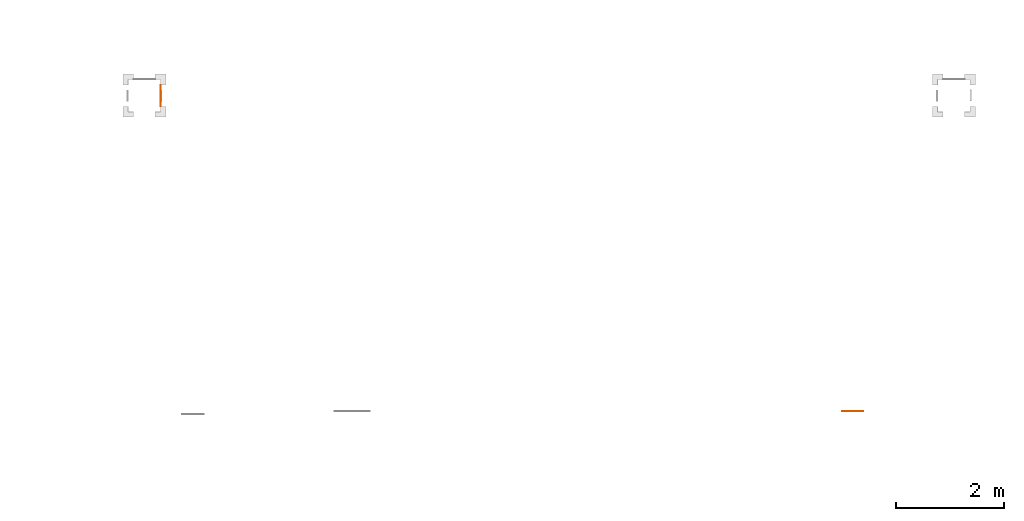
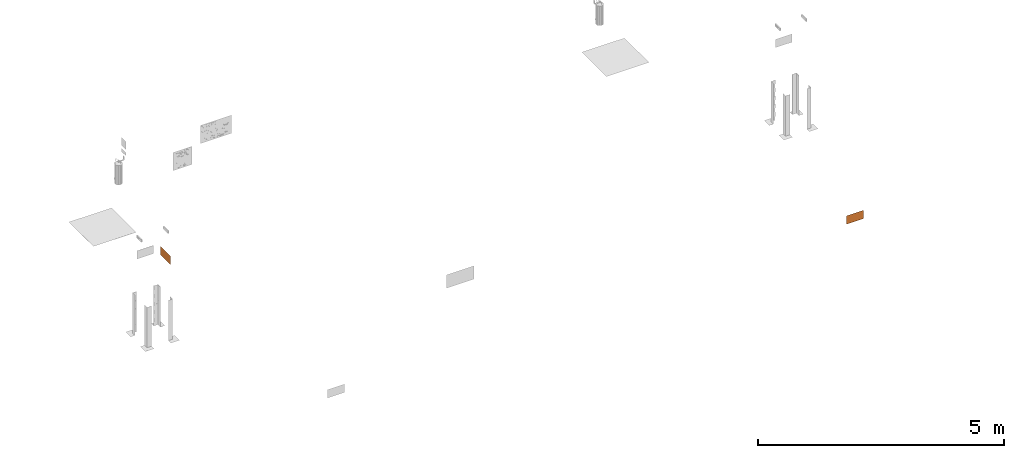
# One storey, part 26 of 119: 2 proxies.
"""IFC2X3 building model written with IfcOpenShell, lengths in metres."""

from ifc_helpers import new_model, entity, si_unit, converted_unit, derived_unit, direction, frame, frame_2d, origin, origin_2d_with_axis, place, context, subcontext, project, spatial, polyline, circle_curve, parameter, trimmed, segment, composite_curve, rectangle, outline, extrude, source, transform, mapped, material, material_list, type_object, type_shapes, element, save


model = new_model("IFC2X3")

# Units and contexts
model_context = context("Model", 3, precision=1e-05, world=origin(), true_north=direction((6.12303176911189e-17, 1.0)))
body_context = subcontext(model_context, "Body", "Model", "MODEL_VIEW")
ifc_project = project(units=[si_unit("LENGTHUNIT", "METRE"), si_unit("AREAUNIT", "SQUARE_METRE"), si_unit("VOLUMEUNIT", "CUBIC_METRE"), converted_unit("PLANEANGLEUNIT", "DEGREE", entity("IfcRatioMeasure", 0.0174532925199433), si_unit("PLANEANGLEUNIT", "RADIAN"), dimensions=[0, 0, 0, 0, 0, 0, 0]), si_unit("MASSUNIT", "GRAM", prefix="KILO"), derived_unit("MASSDENSITYUNIT", [(si_unit("MASSUNIT", "GRAM", prefix="KILO"), 1), (si_unit("LENGTHUNIT", "METRE"), -3)]), derived_unit("MOMENTOFINERTIAUNIT", [(si_unit("LENGTHUNIT", "METRE"), 4)]), si_unit("TIMEUNIT", "SECOND"), si_unit("FREQUENCYUNIT", "HERTZ"), si_unit("THERMODYNAMICTEMPERATUREUNIT", "DEGREE_CELSIUS"), derived_unit("THERMALTRANSMITTANCEUNIT", [(si_unit("MASSUNIT", "GRAM", prefix="KILO"), 1), (si_unit("THERMODYNAMICTEMPERATUREUNIT", "KELVIN"), -1), (si_unit("TIMEUNIT", "SECOND"), -3)]), derived_unit("VOLUMETRICFLOWRATEUNIT", [(si_unit("LENGTHUNIT", "METRE"), 3), (si_unit("TIMEUNIT", "SECOND"), -1)]), si_unit("ELECTRICCURRENTUNIT", "AMPERE"), si_unit("ELECTRICVOLTAGEUNIT", "VOLT"), si_unit("POWERUNIT", "WATT"), si_unit("FORCEUNIT", "NEWTON", prefix="KILO"), si_unit("ILLUMINANCEUNIT", "LUX"), si_unit("LUMINOUSFLUXUNIT", "LUMEN"), si_unit("LUMINOUSINTENSITYUNIT", "CANDELA"), derived_unit("USERDEFINED", [(si_unit("MASSUNIT", "GRAM", prefix="KILO"), -1), (si_unit("LENGTHUNIT", "METRE"), -2), (si_unit("TIMEUNIT", "SECOND"), 3), (si_unit("LUMINOUSFLUXUNIT", "LUMEN"), 1)]), derived_unit("LINEARVELOCITYUNIT", [(si_unit("LENGTHUNIT", "METRE"), 1), (si_unit("TIMEUNIT", "SECOND"), -1)]), si_unit("PRESSUREUNIT", "PASCAL"), derived_unit("USERDEFINED", [(si_unit("LENGTHUNIT", "METRE"), -2), (si_unit("MASSUNIT", "GRAM", prefix="KILO"), 1), (si_unit("TIMEUNIT", "SECOND"), -2)]), derived_unit("LINEARFORCEUNIT", [(si_unit("MASSUNIT", "GRAM", prefix="KILO"), 1), (si_unit("LENGTHUNIT", "METRE"), 1), (si_unit("TIMEUNIT", "SECOND"), -2), (si_unit("LENGTHUNIT", "METRE"), -1)]), derived_unit("PLANARFORCEUNIT", [(si_unit("MASSUNIT", "GRAM", prefix="KILO"), 1), (si_unit("LENGTHUNIT", "METRE"), 1), (si_unit("TIMEUNIT", "SECOND"), -2), (si_unit("LENGTHUNIT", "METRE"), -2)])], contexts=[model_context])

# Site, building, storey
site_placement = place(None, origin())
site = spatial("IfcSite", under=ifc_project, at=site_placement, Name="Default", CompositionType="ELEMENT")
building_placement = place(site_placement, origin())
building = spatial("IfcBuilding", under=site, at=building_placement, CompositionType="ELEMENT")
storey_placement = place(building_placement, origin())
storey = spatial("IfcBuildingStorey", under=building, at=storey_placement, Name="PAV. 01 - TÉRREO", CompositionType="ELEMENT", Elevation=0.0)

# Proxies
ifc_material_1 = material(Name="Plastico branco")
ifc_material_2 = material(Name="Plastico Verde")
ifc_material_list_1 = material_list([ifc_material_1, ifc_material_2])
building_element_proxy_type_1 = type_object("IfcBuildingElementProxyType", Name="Sinalização de orientação - S02 - Indicação do sentido da saída de emergência esquerda:Distância 12m", PredefinedType="NOTDEFINED", material=ifc_material_1)
shared_shape_1 = source(origin(), body_context, "Body", "SweptSolid", [
    extrude(outline(polyline([(-0.0269307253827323, -0.024231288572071), (-0.0259628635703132, -0.024231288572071), (-0.0248498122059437, -0.0234083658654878), (-0.0236286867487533, -0.0219305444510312), (-0.0223366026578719, -0.0199658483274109), (-0.0210106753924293, -0.0176823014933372), (-0.0159905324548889, -0.00832626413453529), (-0.0136800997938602, -0.00426313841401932), (-0.0125256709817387, -0.00238736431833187), (-0.0113513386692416, -0.000610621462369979), (-0.0101417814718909, 0.0010707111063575), (-0.00888166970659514, 0.00266026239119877), (-0.00754048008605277, 0.00417640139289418), (-0.00604105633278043, 0.00568273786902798), (-0.00429732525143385, 0.00725153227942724), (-0.00222321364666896, 0.00895504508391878), (0.000267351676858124, 0.010865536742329), (0.0161156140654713, 0.0220225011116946), (0.00541084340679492, 0.027666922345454), (0.004563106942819, 0.0280964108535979), (0.00398677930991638, 0.0283743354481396), (0.00361343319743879, 0.0285356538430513), (0.00337464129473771, 0.0286153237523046), (0.0032019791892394, 0.0286482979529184), (0.00303386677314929, 0.0286578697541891), (0.00283021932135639, 0.0286307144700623), (0.00255516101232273, 0.02854633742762), (0.00217281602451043, 0.0283842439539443), (0.00164730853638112, 0.0281239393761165), (0.000942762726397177, 0.0277449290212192), (-0.0154440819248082, 0.0179800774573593), (-0.0169906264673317, 0.0173662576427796), (-0.0184263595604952, 0.0170104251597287), (-0.0197467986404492, 0.0168906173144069), (-0.0209474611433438, 0.0169848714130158), (-0.0220238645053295, 0.017271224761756), (-0.0229715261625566, 0.0177277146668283), (-0.0237859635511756, 0.0183323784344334), (-0.0244626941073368, 0.0190632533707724), (-0.0249972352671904, 0.0198983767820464), (-0.025385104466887, 0.0208157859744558), (-0.0256218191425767, 0.0217935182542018), (-0.02570289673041, 0.0228096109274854), (-0.0256238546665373, 0.023842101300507), (-0.0253802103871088, 0.024869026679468), (-0.024967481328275, 0.0258684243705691), (-0.0243811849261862, 0.026818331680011), (-0.0236168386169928, 0.0276967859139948), (-0.022669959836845, 0.0284818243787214), (-0.012358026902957, 0.0349145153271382), (-0.0056365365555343, 0.0389186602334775), (-0.00143098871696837, 0.0410123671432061), (0.00133311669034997, 0.0417137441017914), (0.00371952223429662, 0.0415365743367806), (0.00635115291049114, 0.0408174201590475), (0.00926485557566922, 0.0396572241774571), (0.0124569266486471, 0.0381406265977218), (0.0382522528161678, 0.0245317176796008), (0.0409647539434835, 0.0230291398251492), (0.0432264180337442, 0.021505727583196), (0.0450948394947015, 0.0197223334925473), (0.0466276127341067, 0.0174398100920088), (0.0478823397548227, 0.0144190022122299), (0.0489477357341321, 0.0103891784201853), (0.0500145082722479, 0.00497609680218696), (0.0529984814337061, -0.0115815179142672), (0.0687826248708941, -0.0199385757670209), (0.101976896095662, 0.0427561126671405), (0.00232291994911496, 0.0955188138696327), (-0.0513007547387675, -0.00576130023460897), (-0.0561261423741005, -0.00320645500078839), (-0.0853051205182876, -0.0156605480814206), (-0.0628396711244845, -0.0275550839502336), (-0.0734521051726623, -0.0475990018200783), (-0.0904241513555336, -0.0529832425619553), (-0.0204118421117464, -0.0900518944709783), (-0.00292720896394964, -0.0849390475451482), (0.0122206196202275, -0.0929592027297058), (-0.00693758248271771, -0.0971859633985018), (0.00953030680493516, -0.105905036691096), (0.0262018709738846, -0.100361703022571), (0.0628213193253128, -0.0311978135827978), (0.0451218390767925, -0.0218302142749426), (0.0436304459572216, -0.0209809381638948), (0.0424868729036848, -0.020192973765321), (0.041614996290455, -0.0193663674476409), (0.0409386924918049, -0.0184011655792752), (0.0403818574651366, -0.0171974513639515), (0.0398810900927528, -0.0156792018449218), (0.0394075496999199, -0.0138354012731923), (0.0389382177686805, -0.0116659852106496), (0.0366426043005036, 0.000269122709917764), (0.0172569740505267, -0.0138624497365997), (0.0147941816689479, -0.0880984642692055), (-0.000353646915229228, -0.0800783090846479), (-0.000324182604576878, -0.0142849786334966), (-0.0124368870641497, -0.0319051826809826), (-0.0138384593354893, -0.0341119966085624), (-0.0151491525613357, -0.0360250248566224), (-0.0164165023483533, -0.0376353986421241), (-0.0176880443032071, -0.0389342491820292), (-0.0190113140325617, -0.0399127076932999), (-0.0204338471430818, -0.0405619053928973), (-0.0220031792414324, -0.0408729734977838), (-0.0237668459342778, -0.0408370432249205), (-0.025772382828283, -0.0404452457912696), (-0.0280673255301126, -0.0396887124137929), (-0.0306992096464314, -0.0385585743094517), (-0.0337155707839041, -0.0370459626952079), (-0.0714172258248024, -0.0170844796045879), (-0.0536029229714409, -0.0101094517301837), (-0.0269307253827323, -0.024231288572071)]), holes=[composite_curve([segment(trimmed(circle_curve(frame_2d((0.0517161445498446, 0.0359195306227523), x_axis=(0.883770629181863, -0.46792037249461)), 0.0134), [parameter(180.0)], [parameter(360.0)], True, "PARAMETER"), False, "CONTINUOUS"), segment(trimmed(circle_curve(frame_2d((0.0517161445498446, 0.0359195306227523), x_axis=(0.883770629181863, -0.46792037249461)), 0.0134), [parameter(2.03555499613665e-13)], [parameter(180.0)], True, "PARAMETER"), False, "CONTINUOUS")], self_intersect=False)]), frame((0.112957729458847, -0.00110000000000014, 1.90431633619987), z_axis=(0.0, 1.0, 0.0), x_axis=(-0.883770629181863, 0.0, 0.46792037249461)), (0.0, 0.0, 1.0), 0.0011),
    extrude(outline(polyline([(-0.197500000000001, -0.102500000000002), (0.197500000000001, -0.102500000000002), (0.197500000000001, 0.102500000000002), (-0.197500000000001, 0.102500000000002), (-0.197500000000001, -0.102500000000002)]), holes=[polyline([(-0.190000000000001, -0.0950000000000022), (-0.190000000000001, 0.0949999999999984), (0.189999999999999, 0.0949999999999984), (0.189999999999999, -0.0950000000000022), (-0.190000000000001, -0.0950000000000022)])]), frame((0.0, -0.0011, 1.9025), z_axis=(0.0, 1.0, 0.0), x_axis=(1.0, 0.0, 0.0)), (0.0, 0.0, 1.0), 0.0011),
    extrude(rectangle(XDim=0.38, YDim=0.001, at=origin_2d_with_axis()), frame((0.0, -0.0005, 1.8075)), (0.0, 0.0, 1.0), 0.190000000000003),
    extrude(outline(polyline([(-0.0341511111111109, -0.0575999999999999), (0.016628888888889, -0.0575999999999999), (-0.0218311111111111, -0.0191399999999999), (0.0852288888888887, -0.0191399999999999), (0.0852288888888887, 0.0191400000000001), (-0.0218311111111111, 0.0191400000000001), (0.016628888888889, 0.0576000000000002), (-0.0341511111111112, 0.0576000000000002), (-0.0917511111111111, 0.0), (-0.0341511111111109, -0.0575999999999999)])), frame((-0.0852288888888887, -0.0011, 1.9025), z_axis=(0.0, 1.0, 0.0), x_axis=(1.0, 0.0, 0.0)), (0.0, 0.0, 1.0), 0.0011),
])
type_shapes(building_element_proxy_type_1, [shared_shape_1])
proxy_1_placement = place(storey_placement, frame((6.47387477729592, 0.425057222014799, 0.0), z_axis=(0.0, 0.0, 1.0), x_axis=(0.0, 1.0, 0.0)))
element("IfcBuildingElementProxy", 1, at=proxy_1_placement, inside=storey, type_object=building_element_proxy_type_1, material=ifc_material_list_1, Name="Sinalização de orientação - S02 - Indicação do sentido da saída de emergência esquerda:Distância 12m", ObjectType="Sinalização de orientação - S02 - Indicação do sentido da saída de emergência esquerda:Distância 12m", context=body_context, shape_type="MappedRepresentation", body=[
    mapped(shared_shape_1, transform((0.0, 0.0, 0.0), scale=1.0)),
])
ifc_material_list_2 = material_list([ifc_material_1, ifc_material_2])
building_element_proxy_type_2 = type_object("IfcBuildingElementProxyType", Name="Sinalização de orientação - S01 - Indicação do sentido da saída de emergência direita:Distância 12m", PredefinedType="NOTDEFINED", material=ifc_material_1)
shared_shape_2 = source(origin(), body_context, "Body", "SweptSolid", [
    extrude(outline(polyline([(0.0124622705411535, 0.0340163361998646), (0.0116069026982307, 0.0335634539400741), (0.0110082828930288, 0.0323153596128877), (0.0106205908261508, 0.0304379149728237), (0.0103980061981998, 0.0280969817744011), (0.0102947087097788, 0.0254584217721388), (0.0102359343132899, 0.0148408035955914), (0.0100952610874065, 0.0101688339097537), (0.00995272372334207, 0.00797089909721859), (0.00974625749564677, 0.00585117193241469), (0.00946401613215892, 0.00379928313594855), (0.00909414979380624, 0.0018048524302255), (0.00861827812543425, -0.000162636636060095), (0.00799797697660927, -0.00219550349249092), (0.00719098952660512, -0.00439788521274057), (0.00615505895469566, -0.0068739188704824), (0.00484792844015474, -0.00972774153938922), (0.00322734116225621, -0.0130634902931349), (-0.00393772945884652, -0.0270036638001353), (0.00911414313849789, -0.0269659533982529), (0.00975353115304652, -0.0269418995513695), (0.0101589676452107, -0.0269097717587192), (0.0104072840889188, -0.0268684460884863), (0.0105753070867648, -0.026816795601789), (0.0107283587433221, -0.0267465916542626), (0.0108956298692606, -0.0266273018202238), (0.0110992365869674, -0.0264240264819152), (0.0113612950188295, -0.02610186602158), (0.0117039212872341, -0.02562592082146), (0.0121492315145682, -0.0249612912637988), (0.0134363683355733, -0.022926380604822), (0.0220622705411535, -0.00866366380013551), (0.0231418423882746, -0.00739752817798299), (0.024244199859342, -0.00641124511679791), (0.0253551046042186, -0.00568750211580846), (0.026460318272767, -0.0052089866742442), (0.0275456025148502, -0.00495838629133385), (0.0285967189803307, -0.00491838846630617), (0.0295994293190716, -0.00507168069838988), (0.0305394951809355, -0.00540095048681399), (0.0314026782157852, -0.00588888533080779), (0.0321747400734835, -0.00651817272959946), (0.0328414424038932, -0.0072715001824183), (0.033388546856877, -0.00813155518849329), (0.0338018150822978, -0.00908102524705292), (0.0340670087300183, -0.0101025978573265), (0.0341698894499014, -0.0111789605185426), (0.0340962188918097, -0.0122928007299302), (0.0338317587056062, -0.0134268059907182), (0.0333622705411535, -0.0145636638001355), (0.027258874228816, -0.0250738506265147), (0.0231922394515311, -0.0317577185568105), (0.020455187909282, -0.0355759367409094), (0.0183405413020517, -0.0374891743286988), (0.0161486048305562, -0.0384492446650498), (0.0134863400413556, -0.0390450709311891), (0.0103684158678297, -0.0393831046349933), (0.00683771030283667, -0.0395364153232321), (-0.0223273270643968, -0.0395794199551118), (-0.0254276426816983, -0.0395207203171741), (-0.0281392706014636, -0.0392326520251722), (-0.0306250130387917, -0.0385308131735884), (-0.0330476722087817, -0.0372308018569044), (-0.0355700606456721, -0.0351482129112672), (-0.0383972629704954, -0.0320852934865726), (-0.0418729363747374, -0.0278005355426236), (-0.0522577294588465, -0.0145636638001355), (-0.0701177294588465, -0.0145636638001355), (-0.0701177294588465, -0.0855036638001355), (0.0426422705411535, -0.0855036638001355), (0.0426422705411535, 0.0290963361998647), (0.0481022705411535, 0.0290963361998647), (0.0680622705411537, 0.0537563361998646), (0.0426422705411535, 0.0537563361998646), (0.0426422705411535, 0.0764363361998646), (0.0551222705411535, 0.0891363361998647), (-0.0240977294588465, 0.0891363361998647), (-0.0371577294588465, 0.0764363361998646), (-0.0542977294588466, 0.0764363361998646), (-0.039344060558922, 0.0891363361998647), (-0.0579777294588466, 0.0891363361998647), (-0.0701177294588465, 0.0764363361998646), (-0.0701177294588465, -0.00182366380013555), (-0.0500921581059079, -0.00182052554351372), (-0.048376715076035, -0.00187323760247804), (-0.0469973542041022, -0.00203451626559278), (-0.0458400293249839, -0.00235707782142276), (-0.0447906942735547, -0.00289363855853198), (-0.0437353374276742, -0.0036968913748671), (-0.0425823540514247, -0.00480435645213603), (-0.0413011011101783, -0.00621227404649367), (-0.0398712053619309, -0.00790993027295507), (-0.0322577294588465, -0.0173836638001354), (-0.0217377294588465, 0.00417633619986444), (-0.0542977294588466, 0.0709363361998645), (-0.0371577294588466, 0.0709363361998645), (-0.00639772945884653, 0.0127763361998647), (-0.00393772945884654, 0.0340163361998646), (-0.00373167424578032, 0.0366224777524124), (-0.00346846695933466, 0.0389264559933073), (-0.00310194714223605, 0.0409426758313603), (-0.00258595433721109, 0.0426855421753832), (-0.00187432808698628, 0.0441694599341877), (-0.000920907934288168, 0.0454088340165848), (0.000320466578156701, 0.0464180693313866), (0.00189595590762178, 0.0472115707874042), (0.00385172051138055, 0.0478037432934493), (0.00623392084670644, 0.0482089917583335), (0.00908871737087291, 0.0484417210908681), (0.0124622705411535, 0.0485163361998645), (0.0551222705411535, 0.0485163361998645), (0.0426422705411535, 0.0340163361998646), (0.0124622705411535, 0.0340163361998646)]), holes=[composite_curve([segment(trimmed(circle_curve(frame_2d((-0.0288977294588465, -0.0559436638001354), x_axis=(-1.0, 0.0)), 0.0134), [parameter(180.0)], [parameter(360.0)], True, "PARAMETER"), False, "CONTINUOUS"), segment(trimmed(circle_curve(frame_2d((-0.0288977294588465, -0.0559436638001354), x_axis=(-1.0, 0.0)), 0.0134), [parameter(2.03555499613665e-13)], [parameter(180.0)], True, "PARAMETER"), False, "CONTINUOUS")], self_intersect=False)]), frame((-0.112957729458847, -0.00110000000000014, 1.90431633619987), z_axis=(0.0, -1.0, 0.0), x_axis=(-1.0, 0.0, 0.0)), (0.0, 0.0, -1.0), 0.0011),
    extrude(outline(polyline([(-0.102500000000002, -0.197500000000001), (0.102500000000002, -0.197500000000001), (0.102500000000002, 0.197500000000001), (-0.102500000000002, 0.197500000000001), (-0.102500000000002, -0.197500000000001)]), holes=[polyline([(-0.0950000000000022, -0.190000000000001), (-0.0950000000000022, 0.189999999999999), (0.0949999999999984, 0.189999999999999), (0.0949999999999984, -0.190000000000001), (-0.0950000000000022, -0.190000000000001)])]), frame((0.0, -0.0011, 1.9025), z_axis=(0.0, 1.0, 0.0), x_axis=(0.0, 0.0, -1.0)), (0.0, 0.0, 1.0), 0.0011),
    extrude(rectangle(XDim=0.001, YDim=0.38, at=origin_2d_with_axis()), frame((0.0, -0.0005, 1.8075), z_axis=(0.0, 0.0, 1.0), x_axis=(0.0, 1.0, 0.0)), (0.0, 0.0, 1.0), 0.190000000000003),
    extrude(outline(polyline([(-0.0165808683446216, -0.0648778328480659), (0.0648778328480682, -0.0648778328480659), (0.0648778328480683, 0.016580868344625), (0.0289709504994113, 0.0524877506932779), (0.0289709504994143, -0.00190290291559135), (-0.0467319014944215, 0.073799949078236), (-0.0737999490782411, 0.0467319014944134), (0.00190290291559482, -0.0289709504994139), (-0.0524877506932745, -0.028970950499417), (-0.0165808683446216, -0.0648778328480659)])), frame((0.0852288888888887, -0.0011, 1.9025), z_axis=(0.0, 1.0, 0.0), x_axis=(0.707106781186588, 0.0, -0.707106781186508)), (0.0, 0.0, 1.0), 0.0011),
])
type_shapes(building_element_proxy_type_2, [shared_shape_2])
proxy_2_placement = place(storey_placement, frame((19.3005352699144, -5.41661806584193, 0.0), z_axis=(0.0, 0.0, 1.0), x_axis=(-1.0, 0.0, 0.0)))
element("IfcBuildingElementProxy", 2, at=proxy_2_placement, inside=storey, type_object=building_element_proxy_type_2, material=ifc_material_list_2, Name="Sinalização de orientação - S01 - Indicação do sentido da saída de emergência direita:Distância 12m", ObjectType="Sinalização de orientação - S01 - Indicação do sentido da saída de emergência direita:Distância 12m", context=body_context, shape_type="MappedRepresentation", body=[
    mapped(shared_shape_2, transform((0.0, 0.0, 0.0), scale=1.0)),
])

save(model, "model.ifc")
